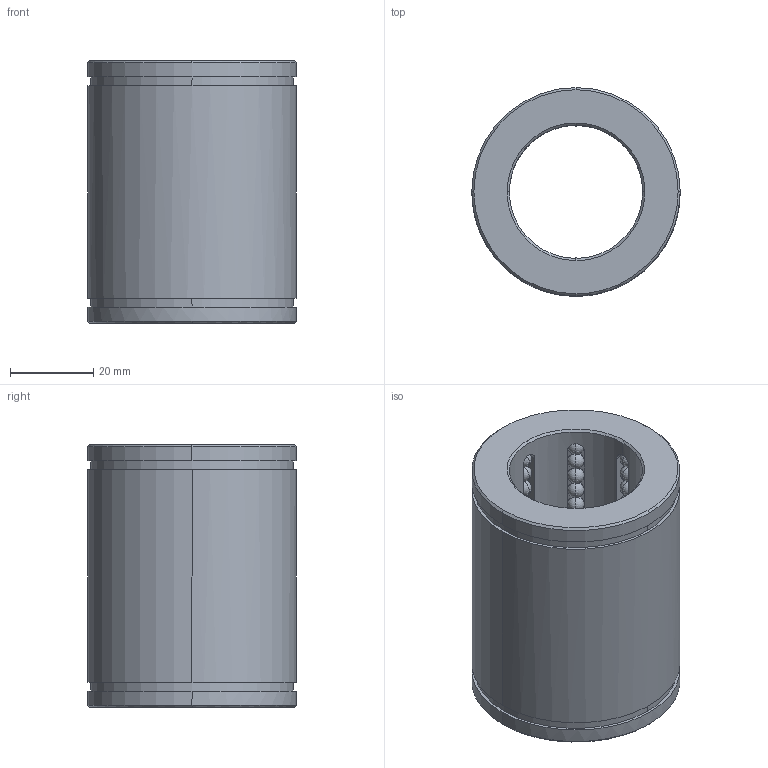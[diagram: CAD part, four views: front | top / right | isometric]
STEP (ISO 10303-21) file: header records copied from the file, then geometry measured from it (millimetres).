
FILE_DESCRIPTION(('CATIA V5 STEP Exchange'),'2;1');
FILE_NAME('C:\Users\Raffaele\Desktop\3D BOLEX\3D FILES CF BOLEX\3-BUSH REF 803\B8033263.stp','2019-06-19T14:07:11+00:00',('none'),('none'),'CATIA Version 5 Release 20 GA (IN-10)','CATIA V5 STEP AP203','none');
FILE_SCHEMA(('CONFIG_CONTROL_DESIGN'));
Length unit declared in the file: millimetre
Products named in the file (1): B8033263
Bounding box: 50 x 50 x 63 mm (x, y, z)
Volume: 69256.5 mm3; surface area: 27672.7 mm2
Topology: 105 solids, 105 shells, 490 faces, 1426 edges, 324 vertices
Faces by surface type: sphere 416, plane 30, cylinder 28, cone 16
Entity records: 9497 total; most frequent: CARTESIAN_POINT 1988, DIRECTION 1529, ORIENTED_EDGE 1188, AXIS2_PLACEMENT_3D 946, EDGE_CURVE 594, EDGE_LOOP 502, ADVANCED_FACE 490, FACE_OUTER_BOUND 490
